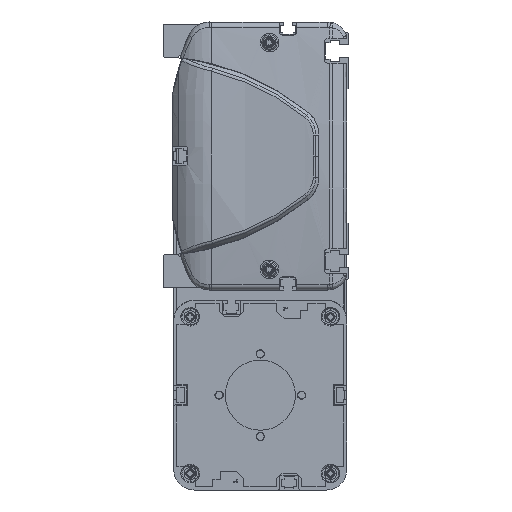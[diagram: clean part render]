
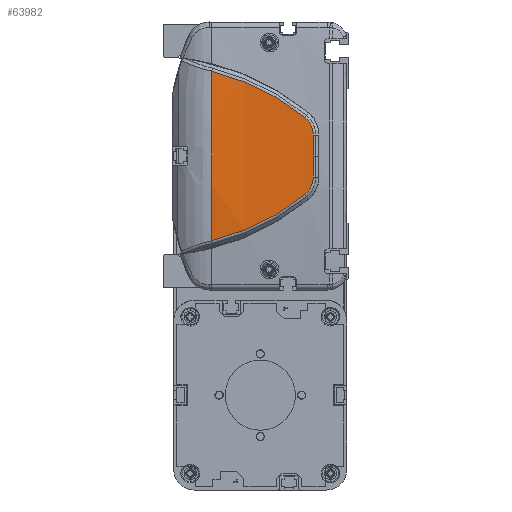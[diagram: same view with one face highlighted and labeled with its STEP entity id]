
A CAD part, left-side view. The second image highlights one B-rep face of the part: STEP entity #63982.
In plain terms, the highlighted cylindrical face has radius 500 mm (diameter 1000 mm), a partial arc.
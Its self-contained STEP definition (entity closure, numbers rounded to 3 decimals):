
#60218=CARTESIAN_POINT('',(-514.,66.962,0.));
#60219=DIRECTION('',(0.,-1.,0.));
#60220=DIRECTION('',(-0.997,0.,0.082));
#60221=AXIS2_PLACEMENT_3D('',#60218,#60219,#60220);
#61101=CARTESIAN_POINT('',(-1013.648,21.913,
-18.759));
#61102=CARTESIAN_POINT('',(-1013.449,28.504,
-24.058));
#61103=CARTESIAN_POINT('',(-1012.934,42.795,
-33.27));
#61104=CARTESIAN_POINT('',(-1012.471,58.756,
-39.127));
#61105=CARTESIAN_POINT('',(-1012.306,66.962,
-41.121));
#61107=CARTESIAN_POINT('',(-1012.306,66.962,
41.121));
#61108=CARTESIAN_POINT('',(-1012.471,58.756,
39.127));
#61109=CARTESIAN_POINT('',(-1012.934,42.795,
33.27));
#61110=CARTESIAN_POINT('',(-1013.449,28.504,
24.058));
#61111=CARTESIAN_POINT('',(-1013.648,21.913,
18.759));
#61113=CARTESIAN_POINT('',(-1013.648,21.913,
18.759));
#61114=CARTESIAN_POINT('',(-1013.686,20.635,
17.736));
#61115=CARTESIAN_POINT('',(-1013.779,18.536,
15.107));
#61116=CARTESIAN_POINT('',(-1013.863,17.752,
11.827));
#61117=CARTESIAN_POINT('',(-1013.896,17.724,
10.178));
#61119=CARTESIAN_POINT('',(-1013.896,17.724,
10.178));
#61120=CARTESIAN_POINT('',(-1013.92,17.707,
9.025));
#61121=CARTESIAN_POINT('',(-1013.959,17.667,
6.733));
#61122=CARTESIAN_POINT('',(-1013.993,17.58,
3.339));
#61123=CARTESIAN_POINT('',(-1014.,17.498,
1.108));
#61124=CARTESIAN_POINT('',(-1014.,17.449,
0.));
#61126=CARTESIAN_POINT('',(-1014.,17.449,
0.));
#61127=CARTESIAN_POINT('',(-1014.,17.498,
-1.108));
#61128=CARTESIAN_POINT('',(-1013.993,17.58,
-3.339));
#61129=CARTESIAN_POINT('',(-1013.959,17.667,
-6.732));
#61130=CARTESIAN_POINT('',(-1013.92,17.707,
-9.027));
#61131=CARTESIAN_POINT('',(-1013.896,17.724,
-10.18));
#61133=CARTESIAN_POINT('',(-1013.896,17.724,
-10.18));
#61134=CARTESIAN_POINT('',(-1013.863,17.752,
-11.828));
#61135=CARTESIAN_POINT('',(-1013.779,18.537,
-15.109));
#61136=CARTESIAN_POINT('',(-1013.686,20.635,
-17.736));
#61137=CARTESIAN_POINT('',(-1013.648,21.913,
-18.759));
#61804=VERTEX_POINT('',#61101);
#61805=VERTEX_POINT('',#61105);
#61806=CARTESIAN_POINT('',(-1012.306,66.962,
41.121));
#61807=VERTEX_POINT('',#61806);
#61808=VERTEX_POINT('',#61111);
#61809=VERTEX_POINT('',#61117);
#61810=VERTEX_POINT('',#61124);
#61811=VERTEX_POINT('',#61131);
#63963=CARTESIAN_POINT('',(-514.,8.606,0.));
#63964=DIRECTION('',(0.,1.,0.));
#63965=DIRECTION('',(1.,0.,0.));
#63966=AXIS2_PLACEMENT_3D('',#63963,#63964,#63965);
#63967=CYLINDRICAL_SURFACE('',#63966,500.);
#63969=ORIENTED_EDGE('',*,*,#63968,.T.);
#63970=ORIENTED_EDGE('',*,*,#62606,.F.);
#63972=ORIENTED_EDGE('',*,*,#63971,.T.);
#63974=ORIENTED_EDGE('',*,*,#63973,.T.);
#63976=ORIENTED_EDGE('',*,*,#63975,.T.);
#63978=ORIENTED_EDGE('',*,*,#63977,.T.);
#63979=ORIENTED_EDGE('',*,*,#63953,.T.);
#63980=EDGE_LOOP('',(#63969,#63970,#63972,#63974,#63976,#63978,#63979));
#63981=FACE_OUTER_BOUND('',#63980,.F.);
#63982=ADVANCED_FACE('',(#63981),#63967,.T.);
#60222=CIRCLE('',#60221,500.);
#61106=B_SPLINE_CURVE_WITH_KNOTS('',3,(#61101,#61102,#61103,#61104,#61105),
.UNSPECIFIED.,.F.,.F.,(4,1,4),(0.,0.5,1.),.UNSPECIFIED.);
#61112=B_SPLINE_CURVE_WITH_KNOTS('',3,(#61107,#61108,#61109,#61110,#61111),
.UNSPECIFIED.,.F.,.F.,(4,1,4),(0.,0.5,1.),.UNSPECIFIED.);
#61118=B_SPLINE_CURVE_WITH_KNOTS('',3,(#61113,#61114,#61115,#61116,#61117),
.UNSPECIFIED.,.F.,.F.,(4,1,4),(0.,0.5,1.),.UNSPECIFIED.);
#61125=B_SPLINE_CURVE_WITH_KNOTS('',3,(#61119,#61120,#61121,#61122,#61123,
#61124),.UNSPECIFIED.,.F.,.F.,(4,1,1,4),(0.,0.333,
0.667,1.),.UNSPECIFIED.);
#61132=B_SPLINE_CURVE_WITH_KNOTS('',3,(#61126,#61127,#61128,#61129,#61130,
#61131),.UNSPECIFIED.,.F.,.F.,(4,1,1,4),(0.,0.333,
0.667,1.),.UNSPECIFIED.);
#61138=B_SPLINE_CURVE_WITH_KNOTS('',3,(#61133,#61134,#61135,#61136,#61137),
.UNSPECIFIED.,.F.,.F.,(4,1,4),(0.,0.5,1.),.UNSPECIFIED.);
#62606=EDGE_CURVE('',#61807,#61805,#60222,.T.);
#63953=EDGE_CURVE('',#61811,#61804,#61138,.T.);
#63968=EDGE_CURVE('',#61804,#61805,#61106,.T.);
#63971=EDGE_CURVE('',#61807,#61808,#61112,.T.);
#63973=EDGE_CURVE('',#61808,#61809,#61118,.T.);
#63975=EDGE_CURVE('',#61809,#61810,#61125,.T.);
#63977=EDGE_CURVE('',#61810,#61811,#61132,.T.);
